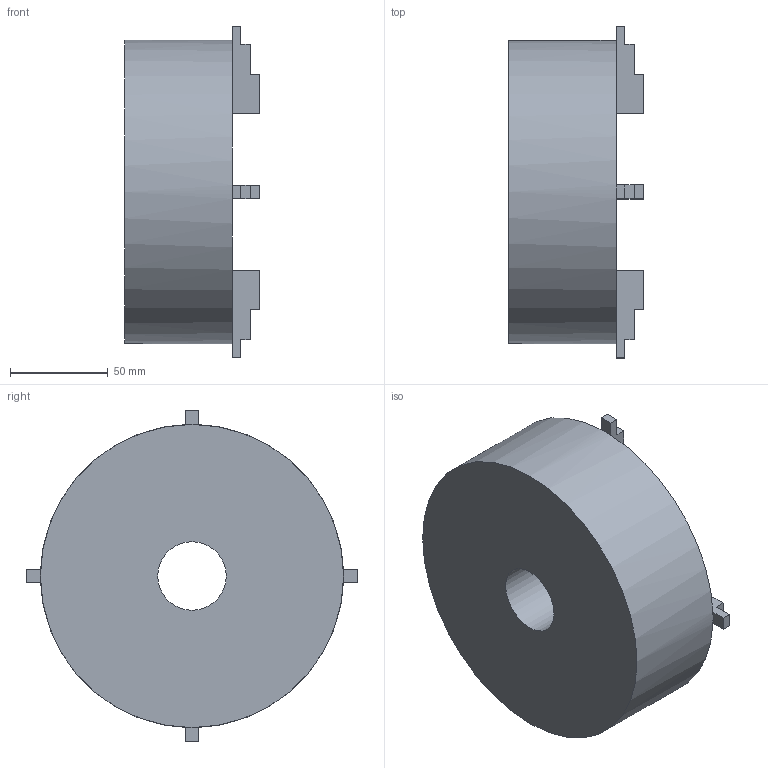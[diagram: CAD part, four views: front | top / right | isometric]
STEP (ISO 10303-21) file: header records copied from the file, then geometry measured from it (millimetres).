
FILE_DESCRIPTION(/* description */ ('STEP AP214'),/* implementation_level */ '2;1');
FILE_NAME(/* name */ '61b898b502ec8a67e2094e36',/* time_stamp */ '2021-12-14T13:14:30+00:00',/* author */ (''),/* organization */ (''),/* preprocessor_version */ 'ST-DEVELOPER v18.1',/* originating_system */ ' ',/* authorisation */ ' ');
FILE_SCHEMA (('AUTOMOTIVE_DESIGN {1 0 10303 214 3 1 1}'));
Length unit declared in the file: metre
Products named in the file (1): Part 2
Bounding box: 69.01 x 169.78 x 169.78 mm (x, y, z)
Volume: 997937.5 mm3; surface area: 73571.4 mm2
Topology: 1 solids, 1 shells, 44 faces, 118 edges, 76 vertices
Faces by surface type: plane 42, cylinder 2
Full cylindrical faces by diameter (mm): 35 x1, 155 x1
Entity records: 1364 total; most frequent: CARTESIAN_POINT 235, ORIENTED_EDGE 230, DIRECTION 216, EDGE_CURVE 115, LINE 104, VECTOR 104, VERTEX_POINT 75, AXIS2_PLACEMENT_3D 56
